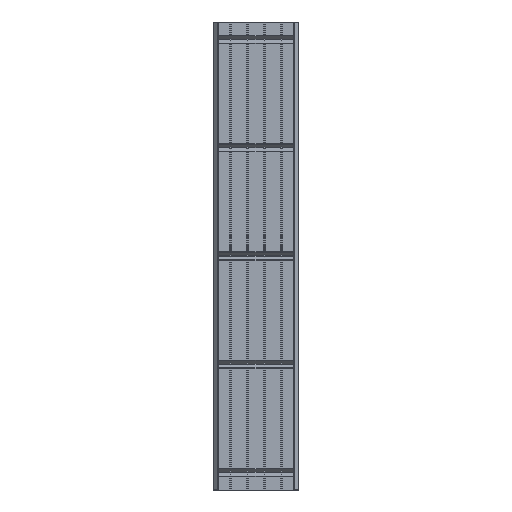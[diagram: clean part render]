
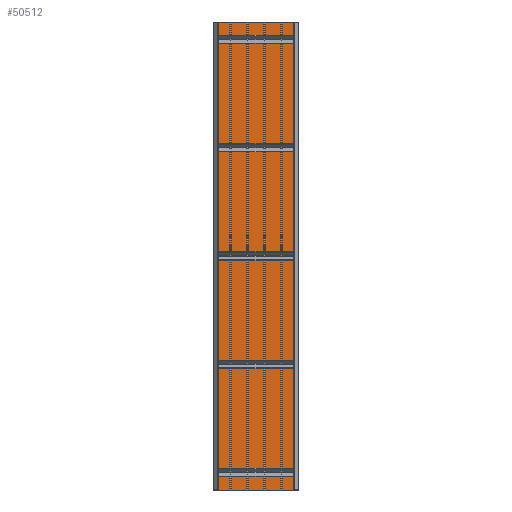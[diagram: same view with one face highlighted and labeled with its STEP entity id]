
A CAD part, front view. The second image highlights one B-rep face of the part: STEP entity #50512.
In plain terms, the highlighted planar face has unit normal (0, -1, 0).
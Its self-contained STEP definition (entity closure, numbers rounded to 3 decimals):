
#1329 = ORIENTED_EDGE ( 'NONE', *, *, #2769, .F. ) ;
#2769 = EDGE_CURVE ( 'NONE', #55331, #42869, #33032, .T. ) ;
#2801 = DIRECTION ( 'NONE',  ( 0., 0., 1. ) ) ;
#4188 = EDGE_LOOP ( 'NONE', ( #29114, #25051, #1329, #53739 ) ) ;
#6081 = LINE ( 'NONE', #40284, #43405 ) ;
#7080 = CARTESIAN_POINT ( 'NONE',  ( -266.7, -68.75, 20. ) ) ;
#10683 = AXIS2_PLACEMENT_3D ( 'NONE', #7080, #28096, #41285 ) ;
#13888 = VECTOR ( 'NONE', #2801, 1000. ) ;
#14862 = CARTESIAN_POINT ( 'NONE',  ( 266.7, -68.75, 20. ) ) ;
#15773 = FACE_OUTER_BOUND ( 'NONE', #4188, .T. ) ;
#16169 = EDGE_CURVE ( 'NONE', #42869, #23161, #16958, .T. ) ;
#16296 = VECTOR ( 'NONE', #52167, 1000. ) ;
#16958 = LINE ( 'NONE', #41916, #40273 ) ;
#20319 = EDGE_CURVE ( 'NONE', #55331, #25250, #6081, .T. ) ;
#23161 = VERTEX_POINT ( 'NONE', #28308 ) ;
#25051 = ORIENTED_EDGE ( 'NONE', *, *, #16169, .F. ) ;
#25250 = VERTEX_POINT ( 'NONE', #14862 ) ;
#26373 = LINE ( 'NONE', #35597, #16296 ) ;
#28096 = DIRECTION ( 'NONE',  ( 0., -1., 0. ) ) ;
#28263 = CARTESIAN_POINT ( 'NONE',  ( -266.7, -68.75, 20. ) ) ;
#28308 = CARTESIAN_POINT ( 'NONE',  ( 266.7, -68.75, 3010. ) ) ;
#29114 = ORIENTED_EDGE ( 'NONE', *, *, #35841, .T. ) ;
#33032 = LINE ( 'NONE', #28263, #13888 ) ;
#35597 = CARTESIAN_POINT ( 'NONE',  ( 266.7, -68.75, 20. ) ) ;
#35841 = EDGE_CURVE ( 'NONE', #25250, #23161, #26373, .T. ) ;
#37737 = CARTESIAN_POINT ( 'NONE',  ( -266.7, -68.75, 20. ) ) ;
#39142 = CARTESIAN_POINT ( 'NONE',  ( -266.7, -68.75, 3010. ) ) ;
#39995 = DIRECTION ( 'NONE',  ( 1., 0., 0. ) ) ;
#40273 = VECTOR ( 'NONE', #50881, 1000. ) ;
#40284 = CARTESIAN_POINT ( 'NONE',  ( -266.7, -68.75, 20. ) ) ;
#41285 = DIRECTION ( 'NONE',  ( 0., 0., -1. ) ) ;
#41916 = CARTESIAN_POINT ( 'NONE',  ( -266.7, -68.75, 3010. ) ) ;
#42869 = VERTEX_POINT ( 'NONE', #39142 ) ;
#43405 = VECTOR ( 'NONE', #39995, 1000. ) ;
#48841 = PLANE ( 'NONE',  #10683 ) ;
#50512 = ADVANCED_FACE ( 'NONE', ( #15773 ), #48841, .T. ) ;
#50881 = DIRECTION ( 'NONE',  ( 1., 0., 0. ) ) ;
#52167 = DIRECTION ( 'NONE',  ( 0., 0., 1. ) ) ;
#53739 = ORIENTED_EDGE ( 'NONE', *, *, #20319, .T. ) ;
#55331 = VERTEX_POINT ( 'NONE', #37737 ) ;
